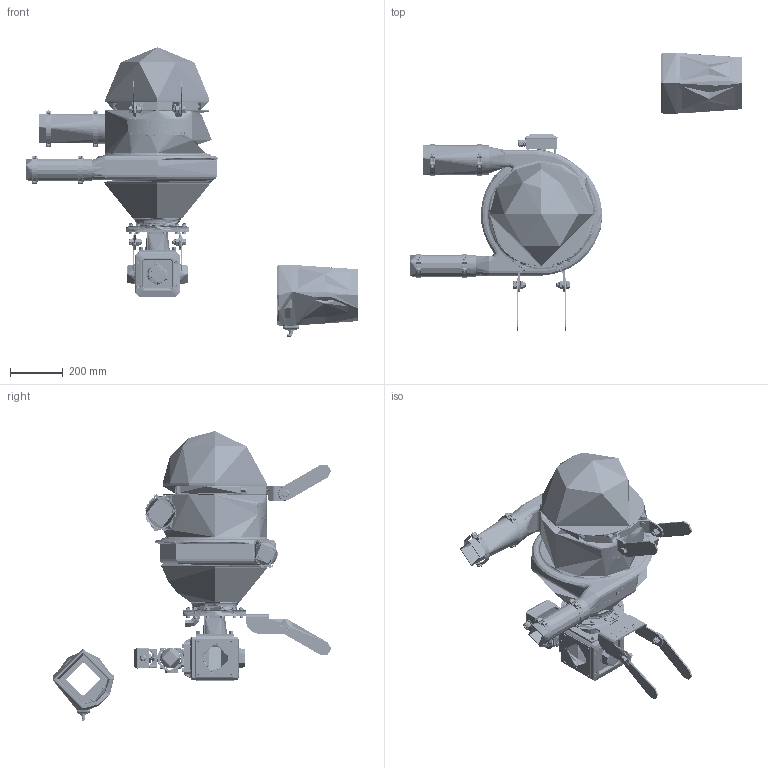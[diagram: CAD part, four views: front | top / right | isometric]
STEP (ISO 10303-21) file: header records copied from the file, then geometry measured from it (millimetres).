
FILE_DESCRIPTION(/* description */ (''),/* implementation_level */ '2;1');
FILE_NAME(/* name */ '1700116C.stp',/* time_stamp */ '2026-07-07T09:29:01+02:00',/* author */ ('DH'),/* organization */ (''),/* preprocessor_version */ 'ST-DEVELOPER v20',/* originating_system */ 'Autodesk Inventor 2025',/* authorisation */ '');
FILE_SCHEMA (('AUTOMOTIVE_DESIGN { 1 0 10303 214 3 1 1 }'));
Length unit declared in the file: millimetre
Products named in the file (1): 1700116C
Bounding box: 1263 x 1058.93 x 1102.25 mm (x, y, z)
Topology: 12 solids, 15 shells, 13251 faces, 34850 edges, 22467 vertices
Faces by surface type: plane 6021, bspline 4232, cylinder 1721, cone 662, torus 517, sphere 98
Full cylindrical faces by diameter (mm): 3.3 x4, 3.8 x4, 4 x2, 4.33 x4, 4.917 x9, 5 x4, 6 x26, 6.4 x4, 6.5 x8, 6.647 x4, 8 x25, 8.4 x11, 8.5 x13, 8.566 x1, 9 x4, 9.188 x2, 10 x27, 10.106 x32, 10.5 x2, 11 x1, 11.5 x1, 12 x10, 13 x16, 13.3 x2, 13.835 x1, 14 x2, 14.376 x1, 14.9 x1, 15 x1, 15.4 x2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
Entity records: 540914 total; most frequent: CARTESIAN_POINT 228411, ORIENTED_EDGE 69420, DIRECTION 49625, EDGE_CURVE 34710, VERTEX_POINT 22468, LINE 18063, VECTOR 18063, AXIS2_PLACEMENT_3D 15781
